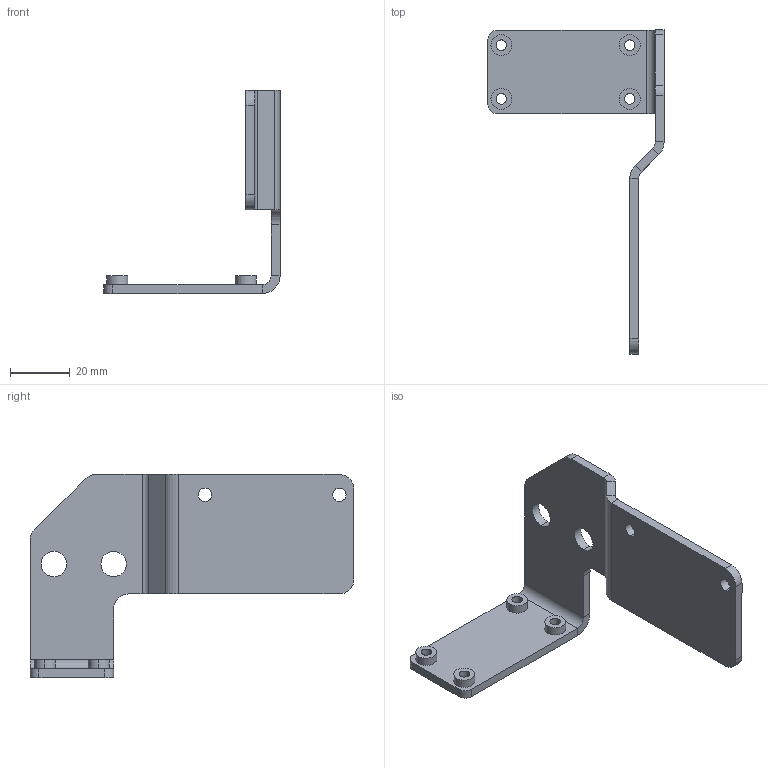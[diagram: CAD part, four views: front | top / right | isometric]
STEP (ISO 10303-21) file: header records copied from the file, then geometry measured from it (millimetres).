
FILE_DESCRIPTION (( 'STEP AP214' ), '1' );
FILE_NAME ('005791.STEP', '2014-03-17T16:18:47', ( 'SCDESIGN08' ), ( '' ), 'SwSTEP 2.0', 'SolidWorks 2012', '' );
FILE_SCHEMA (( 'AUTOMOTIVE_DESIGN' ));
Length unit declared in the file: millimetre
Products named in the file (1): 005791
Bounding box: 59 x 108.49 x 68 mm (x, y, z)
Volume: 19451.4 mm3; surface area: 14848.1 mm2
Topology: 1 solids, 1 shells, 68 faces, 162 edges, 100 vertices
Faces by surface type: cylinder 37, plane 31
Entity records: 2034 total; most frequent: DIRECTION 374, CARTESIAN_POINT 331, ORIENTED_EDGE 324, EDGE_CURVE 162, AXIS2_PLACEMENT_3D 143, VERTEX_POINT 100, LINE 88, EDGE_LOOP 88
